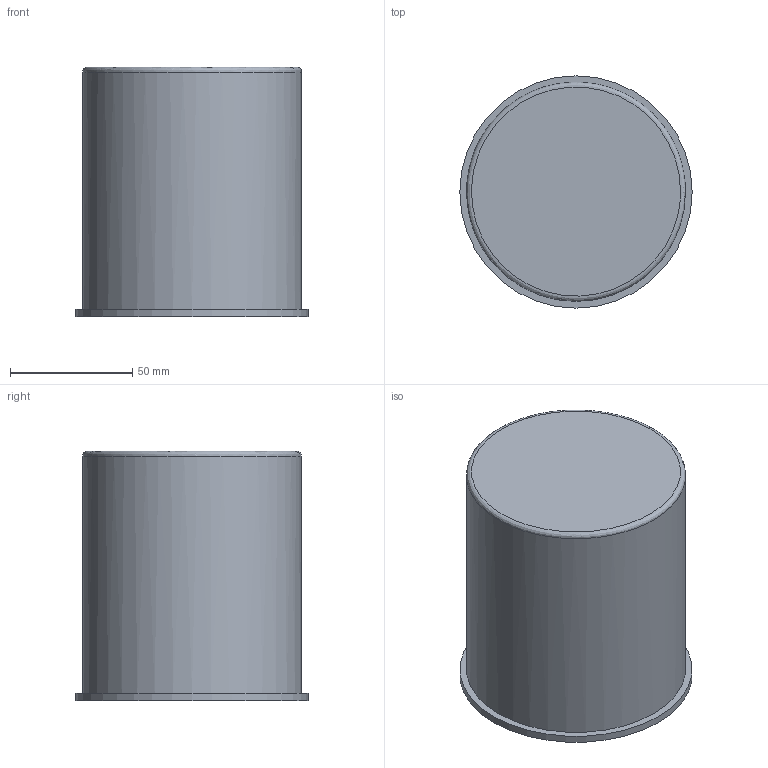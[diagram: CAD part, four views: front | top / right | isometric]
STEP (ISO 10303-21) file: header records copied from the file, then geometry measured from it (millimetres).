
FILE_DESCRIPTION(/* description */ ('STEP AP242','CAx-IF Rec.Pracs.---Representation and Presentation of Product Manufacturing Information (PMI)---4.0---2014-10-13','CAx-IF Rec.Pracs.---3D Tessellated Geometry---0.4---2014-09-14','2;1'),/* implementation_level */ '2;1');
FILE_NAME(/* name */ '67dcbab956e2f57f79dcdb3e',/* time_stamp */ '2025-03-21T01:02:50Z',/* author */ (''),/* organization */ (''),/* preprocessor_version */ 'ST-DEVELOPER v20',/* originating_system */ 'ONSHAPE BY PTC INC, 1.195',/* authorisation */ ' ');
FILE_SCHEMA (('AP242_MANAGED_MODEL_BASED_3D_ENGINEERING_MIM_LF { 1 0 10303 442 1 1 4 }'));
Length unit declared in the file: metre
Products named in the file (1): Part 1
Bounding box: 95 x 95 x 102 mm (x, y, z)
Volume: 76636.5 mm3; surface area: 69198 mm2
Topology: 1 solids, 1 shells, 9 faces, 13 edges, 8 vertices
Faces by surface type: plane 4, cylinder 3, bspline 2
Full cylindrical faces by diameter (mm): 85 x1, 89.5 x1, 95 x1
Entity records: 1116 total; most frequent: CARTESIAN_POINT 964, DIRECTION 24, ORIENTED_EDGE 16, EDGE_LOOP 16, FACE_BOUND 16, AXIS2_PLACEMENT_3D 12, ADVANCED_FACE 9, EDGE_CURVE 8
